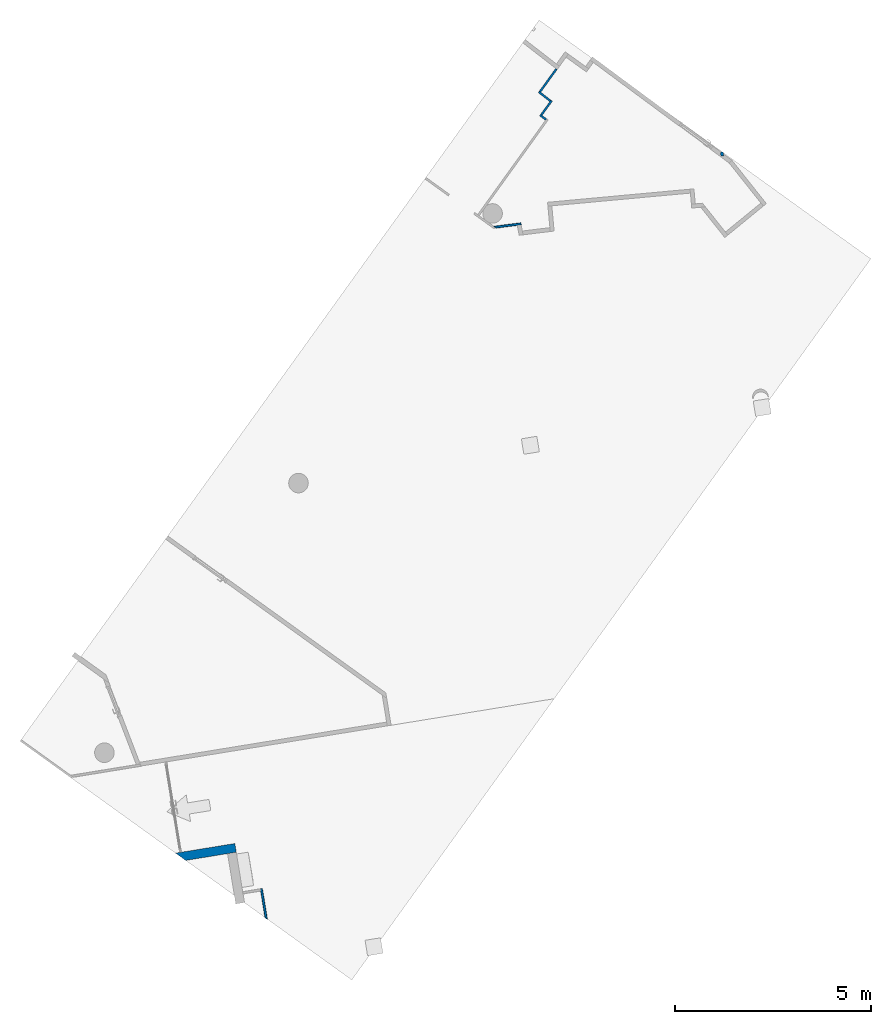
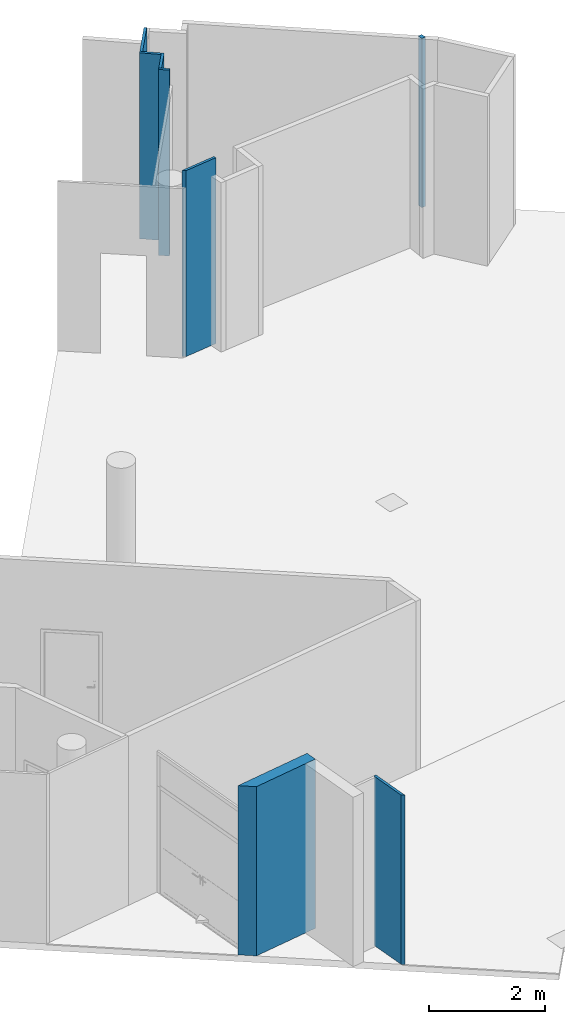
# One storey, part 4 of 10: 8 walls.
"""IFC2X3 building model written with IfcOpenShell, lengths in millimetres."""

from ifc_helpers import new_model, entity, si_unit, converted_unit, derived_unit, direction, frame, frame_2d, origin, origin_with_axes, place, context, subcontext, project, spatial, rectangle, extrude, faceted_brep, material, layer, layer_set, layer_usage, type_object, element, save


model = new_model("IFC2X3")

# Units and contexts
model_context = context("Model", 3, precision=0.01, world=origin(), true_north=direction((6.12323399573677e-17, 1.0)))
plan_context = context("Plan", 3, precision=1e-05, world=origin_with_axes())
body_context = subcontext(model_context, "Body", "Model", "MODEL_VIEW")
ifc_project = project(units=[converted_unit("PLANEANGLEUNIT", "DEGREE", entity("IfcPositiveLengthMeasure", 0.0174532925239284), si_unit("PLANEANGLEUNIT", "RADIAN"), dimensions=[0, 0, 0, 0, 0, 0, 0]), si_unit("AREAUNIT", "SQUARE_METRE"), si_unit("LENGTHUNIT", "METRE", prefix="MILLI"), si_unit("MASSUNIT", "GRAM", prefix="KILO"), si_unit("POWERUNIT", "WATT"), si_unit("PRESSUREUNIT", "PASCAL", prefix="KILO"), si_unit("FORCEUNIT", "NEWTON", prefix="KILO"), si_unit("ELECTRICVOLTAGEUNIT", "VOLT"), si_unit("ELECTRICCURRENTUNIT", "AMPERE"), si_unit("THERMODYNAMICTEMPERATUREUNIT", "DEGREE_CELSIUS"), si_unit("TIMEUNIT", "SECOND"), si_unit("VOLUMEUNIT", "CUBIC_METRE"), derived_unit("LINEARVELOCITYUNIT", [(si_unit("LENGTHUNIT", "METRE"), 1), (si_unit("TIMEUNIT", "SECOND"), -1)]), derived_unit("VOLUMETRICFLOWRATEUNIT", [(si_unit("VOLUMEUNIT", "CUBIC_METRE"), 1), (si_unit("TIMEUNIT", "SECOND"), -1)]), derived_unit("THERMALTRANSMITTANCEUNIT", [(si_unit("POWERUNIT", "WATT"), 1), (si_unit("THERMODYNAMICTEMPERATUREUNIT", "KELVIN"), -1), (si_unit("AREAUNIT", "SQUARE_METRE"), -1)]), derived_unit("SOUNDPRESSUREUNIT", [(si_unit("PRESSUREUNIT", "PASCAL"), 1)])], contexts=[model_context, plan_context])

# Site, building, storey
site_placement = place(None, frame((-305029.896016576, -232111.759730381, 0.0), z_axis=(0.0, 0.0, 1.0), x_axis=(-0.160806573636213, 0.986985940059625, 0.0)))
site = spatial("IfcSite", under=ifc_project, at=site_placement, Name="Default", CompositionType="ELEMENT")
building_placement = place(site_placement, frame((0.0, 0.0, 0.0), z_axis=(0.0, 0.0, 1.0), x_axis=(1.0, -2.77555756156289e-17, 0.0)))
building = spatial("IfcBuilding", under=site, at=building_placement, Name="br001-a-200-1-0001", CompositionType="ELEMENT")
storey_placement = place(building_placement, frame((0.0, 0.0, 55500.0), z_axis=(0.0, 0.0, 1.0), x_axis=(1.0, -2.77555756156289e-17, 0.0)))
storey = spatial("IfcBuildingStorey", under=building, at=storey_placement, Name="H02-Nivå F-3,5 m", CompositionType="ELEMENT", Elevation=55500.0)

# Walls
ifc_material_1 = material(Name="_NSW Standard")
ifc_layer_1 = layer(ifc_material_1, 225.0)
ifc_layer_set_1 = layer_set([ifc_layer_1], Name="Basic Wall:A242 - Standard 225")
wall_type_1 = type_object("IfcWallType", Name="Basic Wall:A242 - Standard 225", PredefinedType="STANDARD", material=ifc_layer_set_1)
wall_1_placement = place(storey_placement, frame((1175741.59858442, -674674.878367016, 0.0), z_axis=(0.0, 0.0, 1.0), x_axis=(-2.77555756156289e-17, -1.0, 0.0)))
element("IfcWall", 1, at=wall_1_placement, inside=storey, type_object=wall_type_1, Name="Basic Wall:A242 - Standard 225", ObjectType="Basic Wall:A242 - Standard 225", context=body_context, shape_type="Brep", body=[
    faceted_brep([(3006.50000000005, -112.500000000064, 0.0), (3006.50000000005, -112.500000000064, 3550.00000000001), (3006.50000000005, 112.500000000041, 3550.00000000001), (3006.50000000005, 112.500000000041, 0.0), (1472.70534582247, 112.500000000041, 3550.00000000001), (1472.70534582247, 112.500000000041, 0.0), (1697.70534582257, -112.500000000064, 0.0), (1697.70534582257, -112.500000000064, 3550.00000000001)], [[[0, 1, 2, 3]], [[4, 5, 3, 2]], [[6, 7, 1, 0]], [[5, 6, 0, 3]], [[7, 4, 2, 1]], [[7, 6, 5, 4]]], orient=[[False], [False], [False], [False], [False], [False]]),
])
ifc_material_2 = material(Name="Glass")
ifc_layer_2 = layer(ifc_material_2, 50.0)
ifc_layer_set_2 = layer_set([ifc_layer_2], Name="Basic Wall:NSW Innvendig - Glassvegg 50")
wall_type_2 = type_object("IfcWallType", Name="Basic Wall:NSW Innvendig - Glassvegg 50", PredefinedType="STANDARD", material=ifc_layer_set_2)
wall_2_placement = place(storey_placement, frame((1170032.81876158, -678163.878367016, 0.0), z_axis=(0.0, 0.0, 1.0), x_axis=(1.0, -2.77555756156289e-17, 0.0)))
element("IfcWall", 2, at=wall_2_placement, inside=storey, type_object=wall_type_2, Name="Basic Wall:NSW Innvendig - Glassvegg 50", ObjectType="Basic Wall:NSW Innvendig - Glassvegg 50", context=body_context, shape_type="Brep", body=[
    faceted_brep([(3779.98516866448, -25.0000000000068, 2.8499234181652e-13), (3779.98516866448, -25.0000000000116, 3550.00000000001), (4570.77982284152, -25.0000000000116, 3550.00000000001), (4570.77982284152, -25.0000000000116, 0.0), (4570.77982284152, 25.0000000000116, 3550.00000000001), (4570.77982284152, 25.0000000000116, 0.0), (3829.9851686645, 25.0000000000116, 3550.00000000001), (3829.9851686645, 25.0000000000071, 2.66972977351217e-13)], [[[0, 1, 2, 3]], [[3, 2, 4, 5]], [[6, 7, 5, 4]], [[7, 0, 3, 5]], [[1, 6, 4, 2]], [[7, 6, 1, 0]]], orient=[[False], [False], [False], [False], [False], [False]]),
])
ifc_layer_3 = layer(ifc_material_1, 100.0)
ifc_layer_set_3 = layer_set([ifc_layer_3], Name="Basic Wall:A242 - Standard 100")
ifc_layer_usage = layer_usage(ifc_layer_set_3, "AXIS2", "NEGATIVE", 50.0)
wall_type_3 = type_object("IfcWallType", Name="Basic Wall:A242 - Standard 100", PredefinedType="STANDARD", material=ifc_layer_set_3)
wall_3_placement = place(storey_placement, frame((1191233.73499533, -692757.69327292, 0.0), z_axis=(0.0, 0.0, 1.0), x_axis=(-2.77555756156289e-17, -1.0, 0.0)))
element("IfcWallStandardCase", 3, at=wall_3_placement, inside=storey, type_object=wall_type_3, material=ifc_layer_usage, Name="Basic Wall:A242 - Standard 100", ObjectType="Basic Wall:A242 - Standard 100", context=body_context, shape_type="SweptSolid", body=[
    extrude(rectangle(XDim=73.8269618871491, YDim=100.000000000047, at=frame_2d((36.9134809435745, 0.0), x_axis=(-1.0, 0.0))), origin(), (0.0, 0.0, 1.0), 3550.00000000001),
])
ifc_layer_4 = layer(ifc_material_1, 50.0)
ifc_layer_set_4 = layer_set([ifc_layer_4], Name="Basic Wall:A242 - Standard 50")
wall_type_4 = type_object("IfcWallType", Name="Basic Wall:A242 - Standard 50", PredefinedType="STANDARD", material=ifc_layer_set_4)
wall_4_placement = place(storey_placement, frame((1190300.0297489, -687440.091527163, 0.0), z_axis=(0.0, 0.0, 1.0), x_axis=(0.0329118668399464, 0.999458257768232, 0.0)))
element("IfcWall", 4, at=wall_4_placement, inside=storey, type_object=wall_type_4, Name="Basic Wall:A242 - Standard 50", ObjectType="Basic Wall:A242 - Standard 50", context=body_context, shape_type="Brep", body=[
    faceted_brep([(3.39642944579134, -25.0, 3900.0), (692.133229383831, -25.0, 3900.0), (692.133229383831, -25.0, 0.0), (3.39642944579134, -25.0, 0.0), (638.728129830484, 25.0, 3900.0), (638.728129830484, 25.0, 0.0), (0.0, 25.0, 3900.0), (0.0, 25.0, 0.0)], [[[0, 1, 2, 3]], [[1, 4, 5, 2]], [[4, 6, 7, 5]], [[6, 0, 3, 7]], [[3, 2, 5, 7]], [[6, 4, 1, 0]]], orient=[[False], [False], [False], [False], [False], [False]]),
])
wall_5_placement = place(storey_placement, frame((1192826.95260117, -688500.924159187, 0.0), z_axis=(0.0, 0.0, 1.0), x_axis=(0.707106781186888, 0.707106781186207, 0.0)))
element("IfcWall", 5, at=wall_5_placement, inside=storey, type_object=wall_type_4, Name="Basic Wall:A242 - Standard 50", ObjectType="Basic Wall:A242 - Standard 50", context=body_context, shape_type="Brep", body=[
    faceted_brep([(191.204138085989, -24.9999999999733, 3900.0), (191.204138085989, 24.9999999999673, 3900.0), (191.204138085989, 24.9999999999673, 0.0), (191.204138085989, -24.9999999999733, 0.0), (0.0, 24.9999999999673, 3900.0), (0.0, 24.9999999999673, 0.0), (0.0, -24.9999999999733, 3900.0), (0.0, -24.9999999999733, 0.0)], [[[0, 1, 2, 3]], [[1, 4, 5, 2]], [[4, 6, 7, 5]], [[6, 0, 3, 7]], [[3, 2, 5, 7]], [[6, 4, 1, 0]]], orient=[[False], [False], [False], [False], [False], [False]]),
])
wall_6_placement = place(storey_placement, frame((1192962.1543438, -688401.077755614, 0.0), z_axis=(0.0, 0.0, 1.0), x_axis=(0.707106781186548, -0.707106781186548, 0.0)))
element("IfcWall", 6, at=wall_6_placement, inside=storey, type_object=wall_type_4, Name="Basic Wall:A242 - Standard 50", ObjectType="Basic Wall:A242 - Standard 50", context=body_context, shape_type="Brep", body=[
    faceted_brep([(0.0, -25.0, 3900.0), (448.673432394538, -25.0, 3900.0), (448.673432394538, -25.0, 0.0), (0.0, -25.0, 0.0), (450.449867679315, 25.0, 3900.0), (450.449867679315, 25.0, 0.0), (0.0, 25.0, 3900.0), (0.0, 25.0, 0.0)], [[[0, 1, 2, 3]], [[1, 4, 5, 2]], [[4, 6, 7, 5]], [[6, 0, 3, 7]], [[3, 2, 5, 7]], [[6, 4, 1, 0]]], orient=[[False], [False], [False], [False], [False], [False]]),
])
wall_7_placement = place(storey_placement, frame((1193280.00937723, -688684.832787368, 0.0), z_axis=(0.0, 0.0, 1.0), x_axis=(0.731767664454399, 0.681554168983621, 0.0)))
element("IfcWall", 7, at=wall_7_placement, inside=storey, type_object=wall_type_4, Name="Basic Wall:A242 - Standard 50", ObjectType="Basic Wall:A242 - Standard 50", context=body_context, shape_type="Brep", body=[
    faceted_brep([(1.7764352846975, -25.0, 3900.0), (375.893764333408, -25.0, 3900.0), (375.893764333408, -25.0, 0.0), (1.7764352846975, -25.0, 0.0), (374.117329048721, 25.0, 3900.0), (374.117329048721, 25.0, 0.0), (0.0, 25.0, 3900.0), (0.0, 25.0, 0.0)], [[[0, 1, 2, 3]], [[1, 4, 5, 2]], [[4, 6, 7, 5]], [[6, 0, 3, 7]], [[3, 2, 5, 7]], [[6, 4, 1, 0]]], orient=[[False], [False], [False], [False], [False], [False]]),
])
wall_8_placement = place(storey_placement, frame((1193553.1813345, -688463.356556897, 0.0), z_axis=(0.0, 0.0, 1.0), x_axis=(0.707106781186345, -0.70710678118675, 0.0)))
element("IfcWall", 8, at=wall_8_placement, inside=storey, type_object=wall_type_4, Name="Basic Wall:A242 - Standard 50", ObjectType="Basic Wall:A242 - Standard 50", context=body_context, shape_type="Brep", body=[
    faceted_brep([(0.0, -25.0, 3900.0), (715.818219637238, -25.0, 3900.0), (715.818219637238, -25.0, 0.0), (0.0, -25.0, 0.0), (717.594654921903, 25.0, 3900.0), (717.594654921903, 25.0, 0.0), (1.77643528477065, 25.0, 3900.0), (1.77643528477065, 25.0, 0.0)], [[[0, 1, 2, 3]], [[1, 4, 5, 2]], [[4, 6, 7, 5]], [[6, 0, 3, 7]], [[3, 2, 5, 7]], [[6, 4, 1, 0]]], orient=[[False], [False], [False], [False], [False], [False]]),
])

save(model, "model.ifc")
